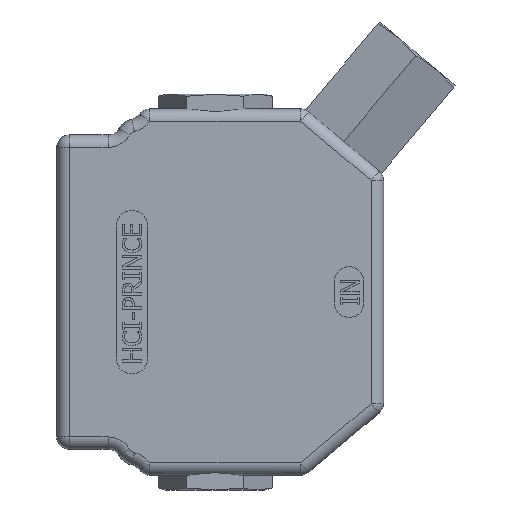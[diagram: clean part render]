
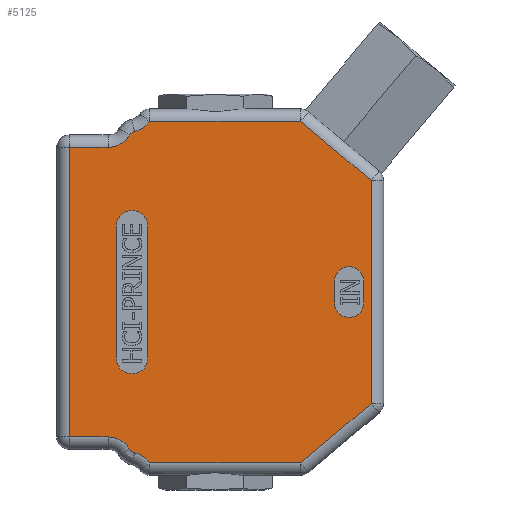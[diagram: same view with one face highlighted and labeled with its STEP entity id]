
A CAD part, left-side view. The second image highlights one B-rep face of the part: STEP entity #5125.
In plain terms, the highlighted planar face has unit normal (-1, 0, 0).
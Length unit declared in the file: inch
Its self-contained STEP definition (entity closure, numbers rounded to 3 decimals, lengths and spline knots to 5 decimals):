
#2432=CARTESIAN_POINT('',(-0.875,-1.0766,-0.126));
#2433=VERTEX_POINT('',#2432);
#2441=CARTESIAN_POINT('',(-0.875,-1.969,-0.87481));
#2442=VERTEX_POINT('',#2441);
#2443=CARTESIAN_POINT('',(-0.875,-1.0766,-0.126));
#2444=DIRECTION('',(0.0,-0.766,-0.643));
#2445=VECTOR('',#2444,1.16495);
#2446=LINE('',#2443,#2445);
#2447=EDGE_CURVE('',#2433,#2442,#2446,.T.);
#2792=CARTESIAN_POINT('',(-0.875,-1.0766,-4.439));
#2793=VERTEX_POINT('',#2792);
#2801=CARTESIAN_POINT('',(-0.875,0.8286,-4.439));
#2802=VERTEX_POINT('',#2801);
#2803=CARTESIAN_POINT('',(-0.875,-1.0766,-4.439));
#2804=DIRECTION('',(0.0,1.0,0.0));
#2805=VECTOR('',#2804,1.9052);
#2806=LINE('',#2803,#2805);
#2807=EDGE_CURVE('',#2793,#2802,#2806,.T.);
#2875=CARTESIAN_POINT('',(-0.875,0.8286,-0.126));
#2876=VERTEX_POINT('',#2875);
#2884=CARTESIAN_POINT('',(-0.875,0.8286,-0.126));
#2885=DIRECTION('',(0.0,-1.0,0.0));
#2886=VECTOR('',#2885,1.9052);
#2887=LINE('',#2884,#2886);
#2888=EDGE_CURVE('',#2876,#2433,#2887,.T.);
#4354=CARTESIAN_POINT('',(-0.875,-1.969,-3.69019));
#4355=VERTEX_POINT('',#4354);
#4356=CARTESIAN_POINT('',(-0.875,-1.969,-0.87481));
#4357=DIRECTION('',(0.0,0.0,-1.0));
#4358=VECTOR('',#4357,2.81538);
#4359=LINE('',#4356,#4358);
#4360=EDGE_CURVE('',#2442,#4355,#4359,.T.);
#4385=CARTESIAN_POINT('',(-0.875,-1.969,-3.69019));
#4386=DIRECTION('',(0.0,0.766,-0.643));
#4387=VECTOR('',#4386,1.16495);
#4388=LINE('',#4385,#4387);
#4389=EDGE_CURVE('',#4355,#2793,#4388,.T.);
#4425=CARTESIAN_POINT('',(-0.875,1.01964,-4.31193));
#4426=VERTEX_POINT('',#4425);
#4427=CARTESIAN_POINT('',(-0.875,1.08482,-4.61704));
#4428=DIRECTION('',(-1.0,0.0,0.0));
#4429=DIRECTION('',(0.0,-0.554,0.833));
#4430=AXIS2_PLACEMENT_3D('',#4427,#4428,#4429);
#4431=CIRCLE('',#4430,0.312);
#4432=EDGE_CURVE('',#2802,#4426,#4431,.T.);
#4468=CARTESIAN_POINT('',(-0.875,1.08142,-4.26697));
#4469=VERTEX_POINT('',#4468);
#4487=CARTESIAN_POINT('',(-0.875,1.,-4.22));
#4488=DIRECTION('',(1.0,0.0,0.0));
#4489=DIRECTION('',(0.0,0.588,-0.809));
#4490=AXIS2_PLACEMENT_3D('',#4487,#4488,#4489);
#4491=CIRCLE('',#4490,0.094);
#4492=EDGE_CURVE('',#4426,#4469,#4491,.T.);
#4502=CARTESIAN_POINT('',(-0.875,1.35168,-4.11088));
#4503=VERTEX_POINT('',#4502);
#4521=CARTESIAN_POINT('',(-0.875,1.35168,-4.42288));
#4522=DIRECTION('',(-1.0,0.0,0.0));
#4523=DIRECTION('',(0.0,-0.5,0.866));
#4524=AXIS2_PLACEMENT_3D('',#4521,#4522,#4523);
#4525=CIRCLE('',#4524,0.312);
#4526=EDGE_CURVE('',#4469,#4503,#4525,.T.);
#4536=CARTESIAN_POINT('',(-0.875,1.844,-4.11088));
#4537=VERTEX_POINT('',#4536);
#4554=CARTESIAN_POINT('',(-0.875,1.35168,-4.11088));
#4555=DIRECTION('',(0.0,1.0,0.0));
#4556=VECTOR('',#4555,0.49232);
#4557=LINE('',#4554,#4556);
#4558=EDGE_CURVE('',#4503,#4537,#4557,.T.);
#4610=CARTESIAN_POINT('',(-0.875,1.844,-0.45413));
#4611=VERTEX_POINT('',#4610);
#4612=CARTESIAN_POINT('',(-0.875,1.844,-4.11088));
#4613=DIRECTION('',(0.0,0.0,1.0));
#4614=VECTOR('',#4613,3.65675);
#4615=LINE('',#4612,#4614);
#4616=EDGE_CURVE('',#4537,#4611,#4615,.T.);
#4678=CARTESIAN_POINT('',(-0.875,1.35168,-0.45413));
#4679=VERTEX_POINT('',#4678);
#4680=CARTESIAN_POINT('',(-0.875,1.844,-0.45413));
#4681=DIRECTION('',(0.0,-1.0,0.0));
#4682=VECTOR('',#4681,0.49232);
#4683=LINE('',#4680,#4682);
#4684=EDGE_CURVE('',#4611,#4679,#4683,.T.);
#4709=CARTESIAN_POINT('',(-0.875,1.08142,-0.29803));
#4710=VERTEX_POINT('',#4709);
#4728=CARTESIAN_POINT('',(-0.875,1.35168,-0.14213));
#4729=DIRECTION('',(-1.0,0.0,0.0));
#4730=DIRECTION('',(0.0,-0.5,-0.866));
#4731=AXIS2_PLACEMENT_3D('',#4728,#4729,#4730);
#4732=CIRCLE('',#4731,0.312);
#4733=EDGE_CURVE('',#4679,#4710,#4732,.T.);
#4745=CARTESIAN_POINT('',(-0.875,1.01964,-0.25307));
#4746=VERTEX_POINT('',#4745);
#4754=CARTESIAN_POINT('',(-0.875,1.08482,0.05204));
#4755=DIRECTION('',(-1.0,0.0,0.0));
#4756=DIRECTION('',(0.0,-0.554,-0.833));
#4757=AXIS2_PLACEMENT_3D('',#4754,#4755,#4756);
#4758=CIRCLE('',#4757,0.312);
#4759=EDGE_CURVE('',#4746,#2876,#4758,.T.);
#4812=CARTESIAN_POINT('',(-0.875,1.0,-0.345));
#4813=DIRECTION('',(1.0,0.0,0.0));
#4814=DIRECTION('',(0.0,0.588,0.809));
#4815=AXIS2_PLACEMENT_3D('',#4812,#4813,#4814);
#4816=CIRCLE('',#4815,0.094);
#4817=EDGE_CURVE('',#4710,#4746,#4816,.T.);
#5032=CARTESIAN_POINT('',(-0.875,0.01154,-2.2825));
#5033=DIRECTION('',(1.0,0.0,0.0));
#5034=DIRECTION('',(0.0,0.0,-1.0));
#5035=AXIS2_PLACEMENT_3D('',#5032,#5033,#5034);
#5036=PLANE('',#5035);
#5037=ORIENTED_EDGE('',*,*,#2888,.F.);
#5038=ORIENTED_EDGE('',*,*,#4759,.F.);
#5039=ORIENTED_EDGE('',*,*,#4817,.F.);
#5040=ORIENTED_EDGE('',*,*,#4733,.F.);
#5041=ORIENTED_EDGE('',*,*,#4684,.F.);
#5042=ORIENTED_EDGE('',*,*,#4616,.F.);
#5043=ORIENTED_EDGE('',*,*,#4558,.F.);
#5044=ORIENTED_EDGE('',*,*,#4526,.F.);
#5045=ORIENTED_EDGE('',*,*,#4492,.F.);
#5046=ORIENTED_EDGE('',*,*,#4432,.F.);
#5047=ORIENTED_EDGE('',*,*,#2807,.F.);
#5048=ORIENTED_EDGE('',*,*,#4389,.F.);
#5049=ORIENTED_EDGE('',*,*,#4360,.F.);
#5050=ORIENTED_EDGE('',*,*,#2447,.F.);
#5051=EDGE_LOOP('',(#5037,#5038,#5039,#5040,#5041,#5042,#5043,#5044,#5045,#5046,#5047,#5048,#5049,#5050));
#5052=FACE_OUTER_BOUND('',#5051,.T.);
#5053=CARTESIAN_POINT('',(-0.875,1.25,-3.1135));
#5054=VERTEX_POINT('',#5053);
#5055=CARTESIAN_POINT('',(-0.875,1.25,-1.4515));
#5056=VERTEX_POINT('',#5055);
#5057=CARTESIAN_POINT('',(-0.875,1.25,-3.1135));
#5058=DIRECTION('',(0.0,0.0,1.0));
#5059=VECTOR('',#5058,1.662);
#5060=LINE('',#5057,#5059);
#5061=EDGE_CURVE('',#5054,#5056,#5060,.T.);
#5062=ORIENTED_EDGE('',*,*,#5061,.T.);
#5063=CARTESIAN_POINT('',(-0.875,0.85,-1.4515));
#5064=VERTEX_POINT('',#5063);
#5065=CARTESIAN_POINT('',(-0.875,1.05,-1.4515));
#5066=DIRECTION('',(1.0,0.0,0.0));
#5067=DIRECTION('',(0.0,1.0,0.0));
#5068=AXIS2_PLACEMENT_3D('',#5065,#5066,#5067);
#5069=CIRCLE('',#5068,0.2);
#5070=EDGE_CURVE('',#5056,#5064,#5069,.T.);
#5071=ORIENTED_EDGE('',*,*,#5070,.T.);
#5072=CARTESIAN_POINT('',(-0.875,0.85,-3.1135));
#5073=VERTEX_POINT('',#5072);
#5074=CARTESIAN_POINT('',(-0.875,0.85,-1.4515));
#5075=DIRECTION('',(0.0,0.0,-1.0));
#5076=VECTOR('',#5075,1.662);
#5077=LINE('',#5074,#5076);
#5078=EDGE_CURVE('',#5064,#5073,#5077,.T.);
#5079=ORIENTED_EDGE('',*,*,#5078,.T.);
#5080=CARTESIAN_POINT('',(-0.875,1.05,-3.1135));
#5081=DIRECTION('',(1.0,0.0,0.0));
#5082=DIRECTION('',(0.0,-1.0,0.0));
#5083=AXIS2_PLACEMENT_3D('',#5080,#5081,#5082);
#5084=CIRCLE('',#5083,0.2);
#5085=EDGE_CURVE('',#5073,#5054,#5084,.T.);
#5086=ORIENTED_EDGE('',*,*,#5085,.T.);
#5087=EDGE_LOOP('',(#5062,#5071,#5079,#5086));
#5088=FACE_BOUND('',#5087,.T.);
#5089=CARTESIAN_POINT('',(-0.875,-1.875,-2.1475));
#5090=VERTEX_POINT('',#5089);
#5091=CARTESIAN_POINT('',(-0.875,-1.875,-2.4175));
#5092=VERTEX_POINT('',#5091);
#5093=CARTESIAN_POINT('',(-0.875,-1.875,-2.1475));
#5094=DIRECTION('',(0.0,0.0,-1.0));
#5095=VECTOR('',#5094,0.27);
#5096=LINE('',#5093,#5095);
#5097=EDGE_CURVE('',#5090,#5092,#5096,.T.);
#5098=ORIENTED_EDGE('',*,*,#5097,.T.);
#5099=CARTESIAN_POINT('',(-0.875,-1.505,-2.4175));
#5100=VERTEX_POINT('',#5099);
#5101=CARTESIAN_POINT('',(-0.875,-1.69,-2.4175));
#5102=DIRECTION('',(1.0,0.0,0.0));
#5103=DIRECTION('',(0.0,-1.0,0.0));
#5104=AXIS2_PLACEMENT_3D('',#5101,#5102,#5103);
#5105=CIRCLE('',#5104,0.185);
#5106=EDGE_CURVE('',#5092,#5100,#5105,.T.);
#5107=ORIENTED_EDGE('',*,*,#5106,.T.);
#5108=CARTESIAN_POINT('',(-0.875,-1.505,-2.1475));
#5109=VERTEX_POINT('',#5108);
#5110=CARTESIAN_POINT('',(-0.875,-1.505,-2.4175));
#5111=DIRECTION('',(0.0,0.0,1.0));
#5112=VECTOR('',#5111,0.27);
#5113=LINE('',#5110,#5112);
#5114=EDGE_CURVE('',#5100,#5109,#5113,.T.);
#5115=ORIENTED_EDGE('',*,*,#5114,.T.);
#5116=CARTESIAN_POINT('',(-0.875,-1.69,-2.1475));
#5117=DIRECTION('',(1.0,0.0,0.0));
#5118=DIRECTION('',(0.0,1.0,0.0));
#5119=AXIS2_PLACEMENT_3D('',#5116,#5117,#5118);
#5120=CIRCLE('',#5119,0.185);
#5121=EDGE_CURVE('',#5109,#5090,#5120,.T.);
#5122=ORIENTED_EDGE('',*,*,#5121,.T.);
#5123=EDGE_LOOP('',(#5098,#5107,#5115,#5122));
#5124=FACE_BOUND('',#5123,.T.);
#5125=ADVANCED_FACE('',(#5052,#5088,#5124),#5036,.F.);
